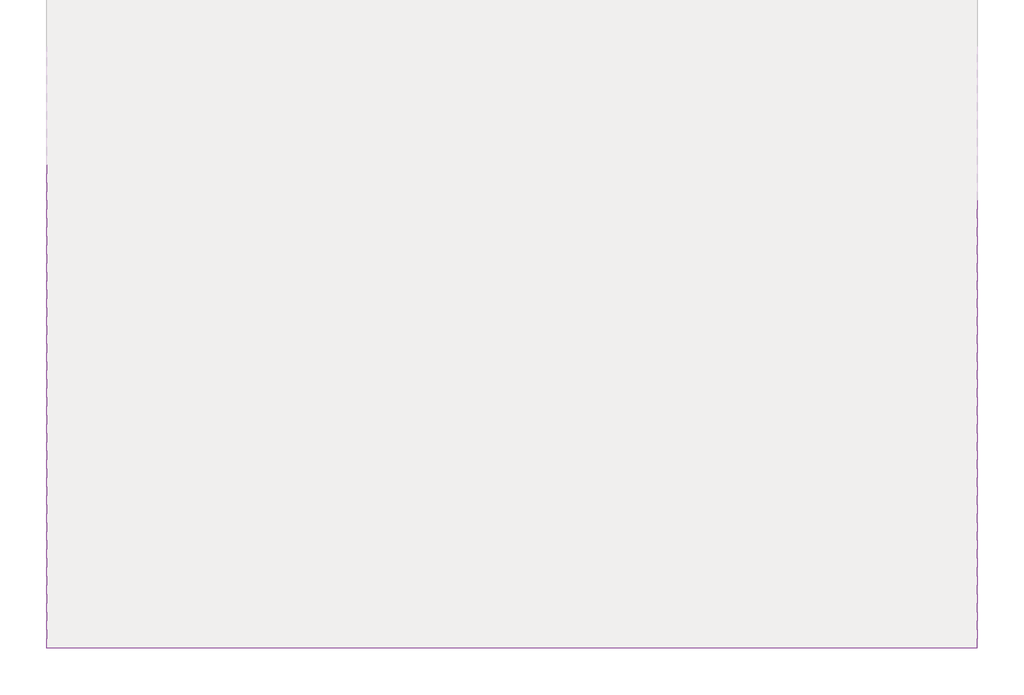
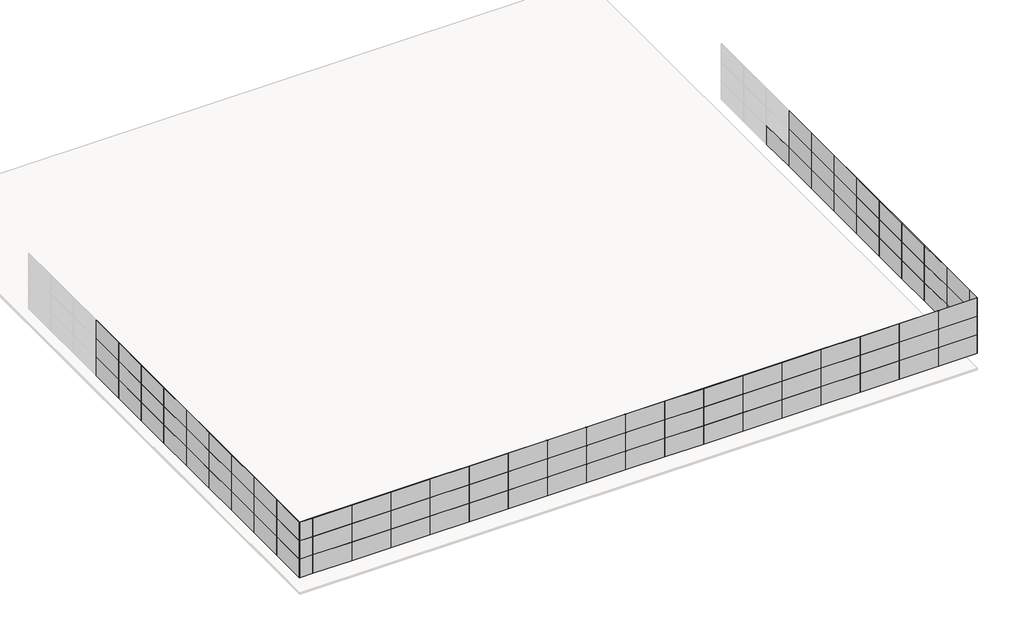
# One storey, part 1 of 2: 109 plates.
"""IFC4 building model written with IfcOpenShell, lengths in millimetres."""

from ifc_helpers import new_model, si_unit, origin, place, context, project, spatial, transform, mapped, element, save
from components import plate_b491c4e8, plate_da1865bf

model = new_model("IFC4")

# Units and contexts
model_context = context("Model", 3, world=origin())
ifc_project = project(units=[si_unit("LENGTHUNIT", "METRE", prefix="MILLI")], contexts=[model_context])

# Site, building, storey
site = spatial("IfcSite", under=ifc_project)
building = spatial("IfcBuilding", under=site)
storey = spatial("IfcBuildingStorey", under=building, Name="标高 2", Elevation=4800.0)

# Plates
placement = place(None, origin())
plate_shape = plate_b491c4e8(model_context)
element("IfcPlate", 1, ObjectType="系统嵌板 : 玻璃", at=placement, inside=storey, context=model_context, shape_type="MappedRepresentation", body=[
    mapped(plate_shape, transform((30694.7947586, -748.6313563, 6000.0), x_axis=(0.0, -1.0, 0.0), y_axis=(1.0, 0.0, 0.0), z_axis=(0.0, 0.0, 1.0))),
])
element("IfcPlate", 2, ObjectType="系统嵌板 : 玻璃", at=placement, inside=storey, context=model_context, shape_type="MappedRepresentation", body=[
    mapped(plate_shape, transform((30694.7947586, -3748.6313563, 6000.0), x_axis=(0.0, -1.0, 0.0), y_axis=(1.0, 0.0, 0.0), z_axis=(0.0, 0.0, 1.0))),
])
element("IfcPlate", 3, ObjectType="系统嵌板 : 玻璃", at=placement, inside=storey, context=model_context, shape_type="MappedRepresentation", body=[
    mapped(plate_shape, transform((30694.7947586, -6748.6313563, 6000.0), x_axis=(0.0, -1.0, 0.0), y_axis=(1.0, 0.0, 0.0), z_axis=(0.0, 0.0, 1.0))),
])
element("IfcPlate", 4, ObjectType="系统嵌板 : 玻璃", at=placement, inside=storey, context=model_context, shape_type="MappedRepresentation", body=[
    mapped(plate_shape, transform((30694.7947586, -9748.6313563, 6000.0), x_axis=(0.0, -1.0, 0.0), y_axis=(1.0, 0.0, 0.0), z_axis=(0.0, 0.0, 1.0))),
])
element("IfcPlate", 5, ObjectType="系统嵌板 : 玻璃", at=placement, inside=storey, context=model_context, shape_type="MappedRepresentation", body=[
    mapped(plate_shape, transform((30694.7947586, -12748.6313563, 6000.0), x_axis=(0.0, -1.0, 0.0), y_axis=(1.0, 0.0, 0.0), z_axis=(0.0, 0.0, 1.0))),
])
element("IfcPlate", 6, ObjectType="系统嵌板 : 玻璃", at=placement, inside=storey, context=model_context, shape_type="MappedRepresentation", body=[
    mapped(plate_shape, transform((30694.7947586, -15748.6313563, 6000.0), x_axis=(0.0, -1.0, 0.0), y_axis=(1.0, 0.0, 0.0), z_axis=(0.0, 0.0, 1.0))),
])
element("IfcPlate", 7, ObjectType="系统嵌板 : 玻璃", at=placement, inside=storey, context=model_context, shape_type="MappedRepresentation", body=[
    mapped(plate_shape, transform((30694.7947586, -18748.6313563, 6000.0), x_axis=(0.0, -1.0, 0.0), y_axis=(1.0, 0.0, 0.0), z_axis=(0.0, 0.0, 1.0))),
])
element("IfcPlate", 8, ObjectType="系统嵌板 : 玻璃", at=placement, inside=storey, context=model_context, shape_type="MappedRepresentation", body=[
    mapped(plate_shape, transform((30694.7947586, -21748.6313563, 6000.0), x_axis=(0.0, -1.0, 0.0), y_axis=(1.0, 0.0, 0.0), z_axis=(0.0, 0.0, 1.0))),
])
element("IfcPlate", 9, ObjectType="系统嵌板 : 玻璃", at=placement, inside=storey, context=model_context, shape_type="MappedRepresentation", body=[
    mapped(plate_shape, transform((30694.7947586, -24748.6313563, 6000.0), x_axis=(0.0, -1.0, 0.0), y_axis=(1.0, 0.0, 0.0), z_axis=(0.0, 0.0, 1.0))),
])
element("IfcPlate", 10, ObjectType="系统嵌板 : 玻璃", at=placement, inside=storey, context=model_context, shape_type="MappedRepresentation", body=[
    mapped(plate_shape, transform((30694.7947586, -3748.6313563, 7500.0), x_axis=(0.0, -1.0, 0.0), y_axis=(1.0, 0.0, 0.0), z_axis=(0.0, 0.0, 1.0))),
])
element("IfcPlate", 11, ObjectType="系统嵌板 : 玻璃", at=placement, inside=storey, context=model_context, shape_type="MappedRepresentation", body=[
    mapped(plate_shape, transform((30694.7947586, -6748.6313563, 7500.0), x_axis=(0.0, -1.0, 0.0), y_axis=(1.0, 0.0, 0.0), z_axis=(0.0, 0.0, 1.0))),
])
element("IfcPlate", 12, ObjectType="系统嵌板 : 玻璃", at=placement, inside=storey, context=model_context, shape_type="MappedRepresentation", body=[
    mapped(plate_shape, transform((30694.7947586, -9748.6313563, 7500.0), x_axis=(0.0, -1.0, 0.0), y_axis=(1.0, 0.0, 0.0), z_axis=(0.0, 0.0, 1.0))),
])
element("IfcPlate", 13, ObjectType="系统嵌板 : 玻璃", at=placement, inside=storey, context=model_context, shape_type="MappedRepresentation", body=[
    mapped(plate_shape, transform((30694.7947586, -12748.6313563, 7500.0), x_axis=(0.0, -1.0, 0.0), y_axis=(1.0, 0.0, 0.0), z_axis=(0.0, 0.0, 1.0))),
])
element("IfcPlate", 14, ObjectType="系统嵌板 : 玻璃", at=placement, inside=storey, context=model_context, shape_type="MappedRepresentation", body=[
    mapped(plate_shape, transform((30694.7947586, -15748.6313563, 7500.0), x_axis=(0.0, -1.0, 0.0), y_axis=(1.0, 0.0, 0.0), z_axis=(0.0, 0.0, 1.0))),
])
element("IfcPlate", 15, ObjectType="系统嵌板 : 玻璃", at=placement, inside=storey, context=model_context, shape_type="MappedRepresentation", body=[
    mapped(plate_shape, transform((30694.7947586, -18748.6313563, 7500.0), x_axis=(0.0, -1.0, 0.0), y_axis=(1.0, 0.0, 0.0), z_axis=(0.0, 0.0, 1.0))),
])
element("IfcPlate", 16, ObjectType="系统嵌板 : 玻璃", at=placement, inside=storey, context=model_context, shape_type="MappedRepresentation", body=[
    mapped(plate_shape, transform((30694.7947586, -21748.6313563, 7500.0), x_axis=(0.0, -1.0, 0.0), y_axis=(1.0, 0.0, 0.0), z_axis=(0.0, 0.0, 1.0))),
])
element("IfcPlate", 17, ObjectType="系统嵌板 : 玻璃", at=placement, inside=storey, context=model_context, shape_type="MappedRepresentation", body=[
    mapped(plate_shape, transform((30694.7947586, -24748.6313563, 7500.0), x_axis=(0.0, -1.0, 0.0), y_axis=(1.0, 0.0, 0.0), z_axis=(0.0, 0.0, 1.0))),
])
element("IfcPlate", 18, ObjectType="系统嵌板 : 玻璃", at=placement, inside=storey, context=model_context, shape_type="MappedRepresentation", body=[
    mapped(plate_shape, transform((30694.7947586, -3748.6313563, 9000.0), x_axis=(0.0, -1.0, 0.0), y_axis=(1.0, 0.0, 0.0), z_axis=(0.0, 0.0, 1.0))),
])
element("IfcPlate", 19, ObjectType="系统嵌板 : 玻璃", at=placement, inside=storey, context=model_context, shape_type="MappedRepresentation", body=[
    mapped(plate_shape, transform((30694.7947586, -6748.6313563, 9000.0), x_axis=(0.0, -1.0, 0.0), y_axis=(1.0, 0.0, 0.0), z_axis=(0.0, 0.0, 1.0))),
])
element("IfcPlate", 20, ObjectType="系统嵌板 : 玻璃", at=placement, inside=storey, context=model_context, shape_type="MappedRepresentation", body=[
    mapped(plate_shape, transform((30694.7947586, -9748.6313563, 9000.0), x_axis=(0.0, -1.0, 0.0), y_axis=(1.0, 0.0, 0.0), z_axis=(0.0, 0.0, 1.0))),
])
element("IfcPlate", 21, ObjectType="系统嵌板 : 玻璃", at=placement, inside=storey, context=model_context, shape_type="MappedRepresentation", body=[
    mapped(plate_shape, transform((30694.7947586, -12748.6313563, 9000.0), x_axis=(0.0, -1.0, 0.0), y_axis=(1.0, 0.0, 0.0), z_axis=(0.0, 0.0, 1.0))),
])
element("IfcPlate", 22, ObjectType="系统嵌板 : 玻璃", at=placement, inside=storey, context=model_context, shape_type="MappedRepresentation", body=[
    mapped(plate_shape, transform((30694.7947586, -15748.6313563, 9000.0), x_axis=(0.0, -1.0, 0.0), y_axis=(1.0, 0.0, 0.0), z_axis=(0.0, 0.0, 1.0))),
])
element("IfcPlate", 23, ObjectType="系统嵌板 : 玻璃", at=placement, inside=storey, context=model_context, shape_type="MappedRepresentation", body=[
    mapped(plate_shape, transform((30694.7947586, -18748.6313563, 9000.0), x_axis=(0.0, -1.0, 0.0), y_axis=(1.0, 0.0, 0.0), z_axis=(0.0, 0.0, 1.0))),
])
element("IfcPlate", 24, ObjectType="系统嵌板 : 玻璃", at=placement, inside=storey, context=model_context, shape_type="MappedRepresentation", body=[
    mapped(plate_shape, transform((30694.7947586, -21748.6313563, 9000.0), x_axis=(0.0, -1.0, 0.0), y_axis=(1.0, 0.0, 0.0), z_axis=(0.0, 0.0, 1.0))),
])
element("IfcPlate", 25, ObjectType="系统嵌板 : 玻璃", at=placement, inside=storey, context=model_context, shape_type="MappedRepresentation", body=[
    mapped(plate_shape, transform((30694.7947586, -24748.6313563, 9000.0), x_axis=(0.0, -1.0, 0.0), y_axis=(1.0, 0.0, 0.0), z_axis=(0.0, 0.0, 1.0))),
])
element("IfcPlate", 26, ObjectType="系统嵌板 : 玻璃", at=placement, inside=storey, context=model_context, shape_type="MappedRepresentation", body=[
    mapped(plate_shape, transform((-21305.2052414, -25748.6313563, 6000.0), x_axis=(0.0, 1.0, 0.0), y_axis=(-1.0, 0.0, 0.0), z_axis=(0.0, 0.0, 1.0))),
])
element("IfcPlate", 27, ObjectType="系统嵌板 : 玻璃", at=placement, inside=storey, context=model_context, shape_type="MappedRepresentation", body=[
    mapped(plate_shape, transform((-21305.2052414, -22748.6313563, 6000.0), x_axis=(0.0, 1.0, 0.0), y_axis=(-1.0, 0.0, 0.0), z_axis=(0.0, 0.0, 1.0))),
])
element("IfcPlate", 28, ObjectType="系统嵌板 : 玻璃", at=placement, inside=storey, context=model_context, shape_type="MappedRepresentation", body=[
    mapped(plate_shape, transform((-21305.2052414, -19748.6313563, 6000.0), x_axis=(0.0, 1.0, 0.0), y_axis=(-1.0, 0.0, 0.0), z_axis=(0.0, 0.0, 1.0))),
])
element("IfcPlate", 29, ObjectType="系统嵌板 : 玻璃", at=placement, inside=storey, context=model_context, shape_type="MappedRepresentation", body=[
    mapped(plate_shape, transform((-21305.2052414, -16748.6313563, 6000.0), x_axis=(0.0, 1.0, 0.0), y_axis=(-1.0, 0.0, 0.0), z_axis=(0.0, 0.0, 1.0))),
])
element("IfcPlate", 30, ObjectType="系统嵌板 : 玻璃", at=placement, inside=storey, context=model_context, shape_type="MappedRepresentation", body=[
    mapped(plate_shape, transform((-21305.2052414, -13748.6313563, 6000.0), x_axis=(0.0, 1.0, 0.0), y_axis=(-1.0, 0.0, 0.0), z_axis=(0.0, 0.0, 1.0))),
])
element("IfcPlate", 31, ObjectType="系统嵌板 : 玻璃", at=placement, inside=storey, context=model_context, shape_type="MappedRepresentation", body=[
    mapped(plate_shape, transform((-21305.2052414, -10748.6313563, 6000.0), x_axis=(0.0, 1.0, 0.0), y_axis=(-1.0, 0.0, 0.0), z_axis=(0.0, 0.0, 1.0))),
])
element("IfcPlate", 32, ObjectType="系统嵌板 : 玻璃", at=placement, inside=storey, context=model_context, shape_type="MappedRepresentation", body=[
    mapped(plate_shape, transform((-21305.2052414, -7748.6313563, 6000.0), x_axis=(0.0, 1.0, 0.0), y_axis=(-1.0, 0.0, 0.0), z_axis=(0.0, 0.0, 1.0))),
])
element("IfcPlate", 33, ObjectType="系统嵌板 : 玻璃", at=placement, inside=storey, context=model_context, shape_type="MappedRepresentation", body=[
    mapped(plate_shape, transform((-21305.2052414, -4748.6313563, 6000.0), x_axis=(0.0, 1.0, 0.0), y_axis=(-1.0, 0.0, 0.0), z_axis=(0.0, 0.0, 1.0))),
])
element("IfcPlate", 34, ObjectType="系统嵌板 : 玻璃", at=placement, inside=storey, context=model_context, shape_type="MappedRepresentation", body=[
    mapped(plate_shape, transform((-21305.2052414, -1748.6313563, 6000.0), x_axis=(0.0, 1.0, 0.0), y_axis=(-1.0, 0.0, 0.0), z_axis=(0.0, 0.0, 1.0))),
])
element("IfcPlate", 35, ObjectType="系统嵌板 : 玻璃", at=placement, inside=storey, context=model_context, shape_type="MappedRepresentation", body=[
    mapped(plate_shape, transform((-21305.2052414, -25748.6313563, 7500.0), x_axis=(0.0, 1.0, 0.0), y_axis=(-1.0, 0.0, 0.0), z_axis=(0.0, 0.0, 1.0))),
])
element("IfcPlate", 36, ObjectType="系统嵌板 : 玻璃", at=placement, inside=storey, context=model_context, shape_type="MappedRepresentation", body=[
    mapped(plate_shape, transform((-21305.2052414, -22748.6313563, 7500.0), x_axis=(0.0, 1.0, 0.0), y_axis=(-1.0, 0.0, 0.0), z_axis=(0.0, 0.0, 1.0))),
])
element("IfcPlate", 37, ObjectType="系统嵌板 : 玻璃", at=placement, inside=storey, context=model_context, shape_type="MappedRepresentation", body=[
    mapped(plate_shape, transform((-21305.2052414, -19748.6313563, 7500.0), x_axis=(0.0, 1.0, 0.0), y_axis=(-1.0, 0.0, 0.0), z_axis=(0.0, 0.0, 1.0))),
])
element("IfcPlate", 38, ObjectType="系统嵌板 : 玻璃", at=placement, inside=storey, context=model_context, shape_type="MappedRepresentation", body=[
    mapped(plate_shape, transform((-21305.2052414, -16748.6313563, 7500.0), x_axis=(0.0, 1.0, 0.0), y_axis=(-1.0, 0.0, 0.0), z_axis=(0.0, 0.0, 1.0))),
])
element("IfcPlate", 39, ObjectType="系统嵌板 : 玻璃", at=placement, inside=storey, context=model_context, shape_type="MappedRepresentation", body=[
    mapped(plate_shape, transform((-21305.2052414, -13748.6313563, 7500.0), x_axis=(0.0, 1.0, 0.0), y_axis=(-1.0, 0.0, 0.0), z_axis=(0.0, 0.0, 1.0))),
])
element("IfcPlate", 40, ObjectType="系统嵌板 : 玻璃", at=placement, inside=storey, context=model_context, shape_type="MappedRepresentation", body=[
    mapped(plate_shape, transform((-21305.2052414, -10748.6313563, 7500.0), x_axis=(0.0, 1.0, 0.0), y_axis=(-1.0, 0.0, 0.0), z_axis=(0.0, 0.0, 1.0))),
])
element("IfcPlate", 41, ObjectType="系统嵌板 : 玻璃", at=placement, inside=storey, context=model_context, shape_type="MappedRepresentation", body=[
    mapped(plate_shape, transform((-21305.2052414, -7748.6313563, 7500.0), x_axis=(0.0, 1.0, 0.0), y_axis=(-1.0, 0.0, 0.0), z_axis=(0.0, 0.0, 1.0))),
])
element("IfcPlate", 42, ObjectType="系统嵌板 : 玻璃", at=placement, inside=storey, context=model_context, shape_type="MappedRepresentation", body=[
    mapped(plate_shape, transform((-21305.2052414, -4748.6313563, 7500.0), x_axis=(0.0, 1.0, 0.0), y_axis=(-1.0, 0.0, 0.0), z_axis=(0.0, 0.0, 1.0))),
])
element("IfcPlate", 43, ObjectType="系统嵌板 : 玻璃", at=placement, inside=storey, context=model_context, shape_type="MappedRepresentation", body=[
    mapped(plate_shape, transform((-21305.2052414, -1748.6313563, 7500.0), x_axis=(0.0, 1.0, 0.0), y_axis=(-1.0, 0.0, 0.0), z_axis=(0.0, 0.0, 1.0))),
])
element("IfcPlate", 44, ObjectType="系统嵌板 : 玻璃", at=placement, inside=storey, context=model_context, shape_type="MappedRepresentation", body=[
    mapped(plate_shape, transform((-21305.2052414, -25748.6313563, 9000.0), x_axis=(0.0, 1.0, 0.0), y_axis=(-1.0, 0.0, 0.0), z_axis=(0.0, 0.0, 1.0))),
])
element("IfcPlate", 45, ObjectType="系统嵌板 : 玻璃", at=placement, inside=storey, context=model_context, shape_type="MappedRepresentation", body=[
    mapped(plate_shape, transform((-21305.2052414, -22748.6313563, 9000.0), x_axis=(0.0, 1.0, 0.0), y_axis=(-1.0, 0.0, 0.0), z_axis=(0.0, 0.0, 1.0))),
])
element("IfcPlate", 46, ObjectType="系统嵌板 : 玻璃", at=placement, inside=storey, context=model_context, shape_type="MappedRepresentation", body=[
    mapped(plate_shape, transform((-21305.2052414, -19748.6313563, 9000.0), x_axis=(0.0, 1.0, 0.0), y_axis=(-1.0, 0.0, 0.0), z_axis=(0.0, 0.0, 1.0))),
])
element("IfcPlate", 47, ObjectType="系统嵌板 : 玻璃", at=placement, inside=storey, context=model_context, shape_type="MappedRepresentation", body=[
    mapped(plate_shape, transform((-21305.2052414, -16748.6313563, 9000.0), x_axis=(0.0, 1.0, 0.0), y_axis=(-1.0, 0.0, 0.0), z_axis=(0.0, 0.0, 1.0))),
])
element("IfcPlate", 48, ObjectType="系统嵌板 : 玻璃", at=placement, inside=storey, context=model_context, shape_type="MappedRepresentation", body=[
    mapped(plate_shape, transform((-21305.2052414, -13748.6313563, 9000.0), x_axis=(0.0, 1.0, 0.0), y_axis=(-1.0, 0.0, 0.0), z_axis=(0.0, 0.0, 1.0))),
])
element("IfcPlate", 49, ObjectType="系统嵌板 : 玻璃", at=placement, inside=storey, context=model_context, shape_type="MappedRepresentation", body=[
    mapped(plate_shape, transform((-21305.2052414, -10748.6313563, 9000.0), x_axis=(0.0, 1.0, 0.0), y_axis=(-1.0, 0.0, 0.0), z_axis=(0.0, 0.0, 1.0))),
])
element("IfcPlate", 50, ObjectType="系统嵌板 : 玻璃", at=placement, inside=storey, context=model_context, shape_type="MappedRepresentation", body=[
    mapped(plate_shape, transform((-21305.2052414, -7748.6313563, 9000.0), x_axis=(0.0, 1.0, 0.0), y_axis=(-1.0, 0.0, 0.0), z_axis=(0.0, 0.0, 1.0))),
])
element("IfcPlate", 51, ObjectType="系统嵌板 : 玻璃", at=placement, inside=storey, context=model_context, shape_type="MappedRepresentation", body=[
    mapped(plate_shape, transform((-21305.2052414, -4748.6313563, 9000.0), x_axis=(0.0, 1.0, 0.0), y_axis=(-1.0, 0.0, 0.0), z_axis=(0.0, 0.0, 1.0))),
])
element("IfcPlate", 52, ObjectType="系统嵌板 : 玻璃", at=placement, inside=storey, context=model_context, shape_type="MappedRepresentation", body=[
    mapped(plate_shape, transform((-21305.2052414, -1748.6313563, 9000.0), x_axis=(0.0, 1.0, 0.0), y_axis=(-1.0, 0.0, 0.0), z_axis=(0.0, 0.0, 1.0))),
])
element("IfcPlate", 53, ObjectType="系统嵌板 : 玻璃", at=placement, inside=storey, context=model_context, shape_type="MappedRepresentation", body=[
    mapped(plate_shape, transform((29194.7947586, -27248.6313563, 6000.0), x_axis=(-1.0, 0.0, 0.0), y_axis=(0.0, -1.0, 0.0), z_axis=(0.0, 0.0, 1.0))),
])
element("IfcPlate", 54, ObjectType="系统嵌板 : 玻璃", at=placement, inside=storey, context=model_context, shape_type="MappedRepresentation", body=[
    mapped(plate_shape, transform((26194.7947586, -27248.6313563, 6000.0), x_axis=(-1.0, 0.0, 0.0), y_axis=(0.0, -1.0, 0.0), z_axis=(0.0, 0.0, 1.0))),
])
element("IfcPlate", 55, ObjectType="系统嵌板 : 玻璃", at=placement, inside=storey, context=model_context, shape_type="MappedRepresentation", body=[
    mapped(plate_shape, transform((23194.7947586, -27248.6313563, 6000.0), x_axis=(-1.0, 0.0, 0.0), y_axis=(0.0, -1.0, 0.0), z_axis=(0.0, 0.0, 1.0))),
])
element("IfcPlate", 56, ObjectType="系统嵌板 : 玻璃", at=placement, inside=storey, context=model_context, shape_type="MappedRepresentation", body=[
    mapped(plate_shape, transform((20194.7947586, -27248.6313563, 6000.0), x_axis=(-1.0, 0.0, 0.0), y_axis=(0.0, -1.0, 0.0), z_axis=(0.0, 0.0, 1.0))),
])
element("IfcPlate", 57, ObjectType="系统嵌板 : 玻璃", at=placement, inside=storey, context=model_context, shape_type="MappedRepresentation", body=[
    mapped(plate_shape, transform((17194.7947586, -27248.6313563, 6000.0), x_axis=(-1.0, 0.0, 0.0), y_axis=(0.0, -1.0, 0.0), z_axis=(0.0, 0.0, 1.0))),
])
element("IfcPlate", 58, ObjectType="系统嵌板 : 玻璃", at=placement, inside=storey, context=model_context, shape_type="MappedRepresentation", body=[
    mapped(plate_shape, transform((14194.7947586, -27248.6313563, 6000.0), x_axis=(-1.0, 0.0, 0.0), y_axis=(0.0, -1.0, 0.0), z_axis=(0.0, 0.0, 1.0))),
])
element("IfcPlate", 59, ObjectType="系统嵌板 : 玻璃", at=placement, inside=storey, context=model_context, shape_type="MappedRepresentation", body=[
    mapped(plate_shape, transform((11194.7947586, -27248.6313563, 6000.0), x_axis=(-1.0, 0.0, 0.0), y_axis=(0.0, -1.0, 0.0), z_axis=(0.0, 0.0, 1.0))),
])
element("IfcPlate", 60, ObjectType="系统嵌板 : 玻璃", at=placement, inside=storey, context=model_context, shape_type="MappedRepresentation", body=[
    mapped(plate_shape, transform((8194.7947586, -27248.6313563, 6000.0), x_axis=(-1.0, 0.0, 0.0), y_axis=(0.0, -1.0, 0.0), z_axis=(0.0, 0.0, 1.0))),
])
element("IfcPlate", 61, ObjectType="系统嵌板 : 玻璃", at=placement, inside=storey, context=model_context, shape_type="MappedRepresentation", body=[
    mapped(plate_shape, transform((5194.7947586, -27248.6313563, 6000.0), x_axis=(-1.0, 0.0, 0.0), y_axis=(0.0, -1.0, 0.0), z_axis=(0.0, 0.0, 1.0))),
])
element("IfcPlate", 62, ObjectType="系统嵌板 : 玻璃", at=placement, inside=storey, context=model_context, shape_type="MappedRepresentation", body=[
    mapped(plate_shape, transform((2194.7947586, -27248.6313563, 6000.0), x_axis=(-1.0, 0.0, 0.0), y_axis=(0.0, -1.0, 0.0), z_axis=(0.0, 0.0, 1.0))),
])
element("IfcPlate", 63, ObjectType="系统嵌板 : 玻璃", at=placement, inside=storey, context=model_context, shape_type="MappedRepresentation", body=[
    mapped(plate_shape, transform((-805.2052414, -27248.6313563, 6000.0), x_axis=(-1.0, 0.0, 0.0), y_axis=(0.0, -1.0, 0.0), z_axis=(0.0, 0.0, 1.0))),
])
element("IfcPlate", 64, ObjectType="系统嵌板 : 玻璃", at=placement, inside=storey, context=model_context, shape_type="MappedRepresentation", body=[
    mapped(plate_shape, transform((-3805.2052414, -27248.6313563, 6000.0), x_axis=(-1.0, 0.0, 0.0), y_axis=(0.0, -1.0, 0.0), z_axis=(0.0, 0.0, 1.0))),
])
element("IfcPlate", 65, ObjectType="系统嵌板 : 玻璃", at=placement, inside=storey, context=model_context, shape_type="MappedRepresentation", body=[
    mapped(plate_shape, transform((-6805.2052414, -27248.6313563, 6000.0), x_axis=(-1.0, 0.0, 0.0), y_axis=(0.0, -1.0, 0.0), z_axis=(0.0, 0.0, 1.0))),
])
element("IfcPlate", 66, ObjectType="系统嵌板 : 玻璃", at=placement, inside=storey, context=model_context, shape_type="MappedRepresentation", body=[
    mapped(plate_shape, transform((-9805.2052414, -27248.6313563, 6000.0), x_axis=(-1.0, 0.0, 0.0), y_axis=(0.0, -1.0, 0.0), z_axis=(0.0, 0.0, 1.0))),
])
element("IfcPlate", 67, ObjectType="系统嵌板 : 玻璃", at=placement, inside=storey, context=model_context, shape_type="MappedRepresentation", body=[
    mapped(plate_shape, transform((-12805.2052414, -27248.6313563, 6000.0), x_axis=(-1.0, 0.0, 0.0), y_axis=(0.0, -1.0, 0.0), z_axis=(0.0, 0.0, 1.0))),
])
element("IfcPlate", 68, ObjectType="系统嵌板 : 玻璃", at=placement, inside=storey, context=model_context, shape_type="MappedRepresentation", body=[
    mapped(plate_shape, transform((-15805.2052414, -27248.6313563, 6000.0), x_axis=(-1.0, 0.0, 0.0), y_axis=(0.0, -1.0, 0.0), z_axis=(0.0, 0.0, 1.0))),
])
element("IfcPlate", 69, ObjectType="系统嵌板 : 玻璃", at=placement, inside=storey, context=model_context, shape_type="MappedRepresentation", body=[
    mapped(plate_shape, transform((-18805.2052414, -27248.6313563, 6000.0), x_axis=(-1.0, 0.0, 0.0), y_axis=(0.0, -1.0, 0.0), z_axis=(0.0, 0.0, 1.0))),
])
element("IfcPlate", 70, ObjectType="系统嵌板 : 玻璃", at=placement, inside=storey, context=model_context, shape_type="MappedRepresentation", body=[
    mapped(plate_shape, transform((29194.7947586, -27248.6313563, 7500.0), x_axis=(-1.0, 0.0, 0.0), y_axis=(0.0, -1.0, 0.0), z_axis=(0.0, 0.0, 1.0))),
])
element("IfcPlate", 71, ObjectType="系统嵌板 : 玻璃", at=placement, inside=storey, context=model_context, shape_type="MappedRepresentation", body=[
    mapped(plate_shape, transform((26194.7947586, -27248.6313563, 7500.0), x_axis=(-1.0, 0.0, 0.0), y_axis=(0.0, -1.0, 0.0), z_axis=(0.0, 0.0, 1.0))),
])
element("IfcPlate", 72, ObjectType="系统嵌板 : 玻璃", at=placement, inside=storey, context=model_context, shape_type="MappedRepresentation", body=[
    mapped(plate_shape, transform((23194.7947586, -27248.6313563, 7500.0), x_axis=(-1.0, 0.0, 0.0), y_axis=(0.0, -1.0, 0.0), z_axis=(0.0, 0.0, 1.0))),
])
element("IfcPlate", 73, ObjectType="系统嵌板 : 玻璃", at=placement, inside=storey, context=model_context, shape_type="MappedRepresentation", body=[
    mapped(plate_shape, transform((20194.7947586, -27248.6313563, 7500.0), x_axis=(-1.0, 0.0, 0.0), y_axis=(0.0, -1.0, 0.0), z_axis=(0.0, 0.0, 1.0))),
])
element("IfcPlate", 74, ObjectType="系统嵌板 : 玻璃", at=placement, inside=storey, context=model_context, shape_type="MappedRepresentation", body=[
    mapped(plate_shape, transform((17194.7947586, -27248.6313563, 7500.0), x_axis=(-1.0, 0.0, 0.0), y_axis=(0.0, -1.0, 0.0), z_axis=(0.0, 0.0, 1.0))),
])
element("IfcPlate", 75, ObjectType="系统嵌板 : 玻璃", at=placement, inside=storey, context=model_context, shape_type="MappedRepresentation", body=[
    mapped(plate_shape, transform((14194.7947586, -27248.6313563, 7500.0), x_axis=(-1.0, 0.0, 0.0), y_axis=(0.0, -1.0, 0.0), z_axis=(0.0, 0.0, 1.0))),
])
element("IfcPlate", 76, ObjectType="系统嵌板 : 玻璃", at=placement, inside=storey, context=model_context, shape_type="MappedRepresentation", body=[
    mapped(plate_shape, transform((11194.7947586, -27248.6313563, 7500.0), x_axis=(-1.0, 0.0, 0.0), y_axis=(0.0, -1.0, 0.0), z_axis=(0.0, 0.0, 1.0))),
])
element("IfcPlate", 77, ObjectType="系统嵌板 : 玻璃", at=placement, inside=storey, context=model_context, shape_type="MappedRepresentation", body=[
    mapped(plate_shape, transform((8194.7947586, -27248.6313563, 7500.0), x_axis=(-1.0, 0.0, 0.0), y_axis=(0.0, -1.0, 0.0), z_axis=(0.0, 0.0, 1.0))),
])
element("IfcPlate", 78, ObjectType="系统嵌板 : 玻璃", at=placement, inside=storey, context=model_context, shape_type="MappedRepresentation", body=[
    mapped(plate_shape, transform((5194.7947586, -27248.6313563, 7500.0), x_axis=(-1.0, 0.0, 0.0), y_axis=(0.0, -1.0, 0.0), z_axis=(0.0, 0.0, 1.0))),
])
element("IfcPlate", 79, ObjectType="系统嵌板 : 玻璃", at=placement, inside=storey, context=model_context, shape_type="MappedRepresentation", body=[
    mapped(plate_shape, transform((2194.7947586, -27248.6313563, 7500.0), x_axis=(-1.0, 0.0, 0.0), y_axis=(0.0, -1.0, 0.0), z_axis=(0.0, 0.0, 1.0))),
])
element("IfcPlate", 80, ObjectType="系统嵌板 : 玻璃", at=placement, inside=storey, context=model_context, shape_type="MappedRepresentation", body=[
    mapped(plate_shape, transform((-805.2052414, -27248.6313563, 7500.0), x_axis=(-1.0, 0.0, 0.0), y_axis=(0.0, -1.0, 0.0), z_axis=(0.0, 0.0, 1.0))),
])
element("IfcPlate", 81, ObjectType="系统嵌板 : 玻璃", at=placement, inside=storey, context=model_context, shape_type="MappedRepresentation", body=[
    mapped(plate_shape, transform((-3805.2052414, -27248.6313563, 7500.0), x_axis=(-1.0, 0.0, 0.0), y_axis=(0.0, -1.0, 0.0), z_axis=(0.0, 0.0, 1.0))),
])
element("IfcPlate", 82, ObjectType="系统嵌板 : 玻璃", at=placement, inside=storey, context=model_context, shape_type="MappedRepresentation", body=[
    mapped(plate_shape, transform((-6805.2052414, -27248.6313563, 7500.0), x_axis=(-1.0, 0.0, 0.0), y_axis=(0.0, -1.0, 0.0), z_axis=(0.0, 0.0, 1.0))),
])
element("IfcPlate", 83, ObjectType="系统嵌板 : 玻璃", at=placement, inside=storey, context=model_context, shape_type="MappedRepresentation", body=[
    mapped(plate_shape, transform((-9805.2052414, -27248.6313563, 7500.0), x_axis=(-1.0, 0.0, 0.0), y_axis=(0.0, -1.0, 0.0), z_axis=(0.0, 0.0, 1.0))),
])
element("IfcPlate", 84, ObjectType="系统嵌板 : 玻璃", at=placement, inside=storey, context=model_context, shape_type="MappedRepresentation", body=[
    mapped(plate_shape, transform((-12805.2052414, -27248.6313563, 7500.0), x_axis=(-1.0, 0.0, 0.0), y_axis=(0.0, -1.0, 0.0), z_axis=(0.0, 0.0, 1.0))),
])
element("IfcPlate", 85, ObjectType="系统嵌板 : 玻璃", at=placement, inside=storey, context=model_context, shape_type="MappedRepresentation", body=[
    mapped(plate_shape, transform((-15805.2052414, -27248.6313563, 7500.0), x_axis=(-1.0, 0.0, 0.0), y_axis=(0.0, -1.0, 0.0), z_axis=(0.0, 0.0, 1.0))),
])
element("IfcPlate", 86, ObjectType="系统嵌板 : 玻璃", at=placement, inside=storey, context=model_context, shape_type="MappedRepresentation", body=[
    mapped(plate_shape, transform((-18805.2052414, -27248.6313563, 7500.0), x_axis=(-1.0, 0.0, 0.0), y_axis=(0.0, -1.0, 0.0), z_axis=(0.0, 0.0, 1.0))),
])
element("IfcPlate", 87, ObjectType="系统嵌板 : 玻璃", at=placement, inside=storey, context=model_context, shape_type="MappedRepresentation", body=[
    mapped(plate_shape, transform((29194.7947586, -27248.6313563, 9000.0), x_axis=(-1.0, 0.0, 0.0), y_axis=(0.0, -1.0, 0.0), z_axis=(0.0, 0.0, 1.0))),
])
element("IfcPlate", 88, ObjectType="系统嵌板 : 玻璃", at=placement, inside=storey, context=model_context, shape_type="MappedRepresentation", body=[
    mapped(plate_shape, transform((26194.7947586, -27248.6313563, 9000.0), x_axis=(-1.0, 0.0, 0.0), y_axis=(0.0, -1.0, 0.0), z_axis=(0.0, 0.0, 1.0))),
])
element("IfcPlate", 89, ObjectType="系统嵌板 : 玻璃", at=placement, inside=storey, context=model_context, shape_type="MappedRepresentation", body=[
    mapped(plate_shape, transform((23194.7947586, -27248.6313563, 9000.0), x_axis=(-1.0, 0.0, 0.0), y_axis=(0.0, -1.0, 0.0), z_axis=(0.0, 0.0, 1.0))),
])
element("IfcPlate", 90, ObjectType="系统嵌板 : 玻璃", at=placement, inside=storey, context=model_context, shape_type="MappedRepresentation", body=[
    mapped(plate_shape, transform((20194.7947586, -27248.6313563, 9000.0), x_axis=(-1.0, 0.0, 0.0), y_axis=(0.0, -1.0, 0.0), z_axis=(0.0, 0.0, 1.0))),
])
element("IfcPlate", 91, ObjectType="系统嵌板 : 玻璃", at=placement, inside=storey, context=model_context, shape_type="MappedRepresentation", body=[
    mapped(plate_shape, transform((17194.7947586, -27248.6313563, 9000.0), x_axis=(-1.0, 0.0, 0.0), y_axis=(0.0, -1.0, 0.0), z_axis=(0.0, 0.0, 1.0))),
])
element("IfcPlate", 92, ObjectType="系统嵌板 : 玻璃", at=placement, inside=storey, context=model_context, shape_type="MappedRepresentation", body=[
    mapped(plate_shape, transform((14194.7947586, -27248.6313563, 9000.0), x_axis=(-1.0, 0.0, 0.0), y_axis=(0.0, -1.0, 0.0), z_axis=(0.0, 0.0, 1.0))),
])
element("IfcPlate", 93, ObjectType="系统嵌板 : 玻璃", at=placement, inside=storey, context=model_context, shape_type="MappedRepresentation", body=[
    mapped(plate_shape, transform((11194.7947586, -27248.6313563, 9000.0), x_axis=(-1.0, 0.0, 0.0), y_axis=(0.0, -1.0, 0.0), z_axis=(0.0, 0.0, 1.0))),
])
element("IfcPlate", 94, ObjectType="系统嵌板 : 玻璃", at=placement, inside=storey, context=model_context, shape_type="MappedRepresentation", body=[
    mapped(plate_shape, transform((8194.7947586, -27248.6313563, 9000.0), x_axis=(-1.0, 0.0, 0.0), y_axis=(0.0, -1.0, 0.0), z_axis=(0.0, 0.0, 1.0))),
])
element("IfcPlate", 95, ObjectType="系统嵌板 : 玻璃", at=placement, inside=storey, context=model_context, shape_type="MappedRepresentation", body=[
    mapped(plate_shape, transform((5194.7947586, -27248.6313563, 9000.0), x_axis=(-1.0, 0.0, 0.0), y_axis=(0.0, -1.0, 0.0), z_axis=(0.0, 0.0, 1.0))),
])
element("IfcPlate", 96, ObjectType="系统嵌板 : 玻璃", at=placement, inside=storey, context=model_context, shape_type="MappedRepresentation", body=[
    mapped(plate_shape, transform((2194.7947586, -27248.6313563, 9000.0), x_axis=(-1.0, 0.0, 0.0), y_axis=(0.0, -1.0, 0.0), z_axis=(0.0, 0.0, 1.0))),
])
element("IfcPlate", 97, ObjectType="系统嵌板 : 玻璃", at=placement, inside=storey, context=model_context, shape_type="MappedRepresentation", body=[
    mapped(plate_shape, transform((-805.2052414, -27248.6313563, 9000.0), x_axis=(-1.0, 0.0, 0.0), y_axis=(0.0, -1.0, 0.0), z_axis=(0.0, 0.0, 1.0))),
])
element("IfcPlate", 98, ObjectType="系统嵌板 : 玻璃", at=placement, inside=storey, context=model_context, shape_type="MappedRepresentation", body=[
    mapped(plate_shape, transform((-3805.2052414, -27248.6313563, 9000.0), x_axis=(-1.0, 0.0, 0.0), y_axis=(0.0, -1.0, 0.0), z_axis=(0.0, 0.0, 1.0))),
])
element("IfcPlate", 99, ObjectType="系统嵌板 : 玻璃", at=placement, inside=storey, context=model_context, shape_type="MappedRepresentation", body=[
    mapped(plate_shape, transform((-6805.2052414, -27248.6313563, 9000.0), x_axis=(-1.0, 0.0, 0.0), y_axis=(0.0, -1.0, 0.0), z_axis=(0.0, 0.0, 1.0))),
])
element("IfcPlate", 100, ObjectType="系统嵌板 : 玻璃", at=placement, inside=storey, context=model_context, shape_type="MappedRepresentation", body=[
    mapped(plate_shape, transform((-9805.2052414, -27248.6313563, 9000.0), x_axis=(-1.0, 0.0, 0.0), y_axis=(0.0, -1.0, 0.0), z_axis=(0.0, 0.0, 1.0))),
])
element("IfcPlate", 101, ObjectType="系统嵌板 : 玻璃", at=placement, inside=storey, context=model_context, shape_type="MappedRepresentation", body=[
    mapped(plate_shape, transform((-12805.2052414, -27248.6313563, 9000.0), x_axis=(-1.0, 0.0, 0.0), y_axis=(0.0, -1.0, 0.0), z_axis=(0.0, 0.0, 1.0))),
])
element("IfcPlate", 102, ObjectType="系统嵌板 : 玻璃", at=placement, inside=storey, context=model_context, shape_type="MappedRepresentation", body=[
    mapped(plate_shape, transform((-15805.2052414, -27248.6313563, 9000.0), x_axis=(-1.0, 0.0, 0.0), y_axis=(0.0, -1.0, 0.0), z_axis=(0.0, 0.0, 1.0))),
])
element("IfcPlate", 103, ObjectType="系统嵌板 : 玻璃", at=placement, inside=storey, context=model_context, shape_type="MappedRepresentation", body=[
    mapped(plate_shape, transform((-18805.2052414, -27248.6313563, 9000.0), x_axis=(-1.0, 0.0, 0.0), y_axis=(0.0, -1.0, 0.0), z_axis=(0.0, 0.0, 1.0))),
])
plate_2_shape = plate_da1865bf(model_context)
element("IfcPlate", 104, ObjectType="系统嵌板 : 玻璃", at=placement, inside=storey, context=model_context, shape_type="MappedRepresentation", body=[
    mapped(plate_2_shape, transform((30694.7947586, -26748.6313563, 6000.0), x_axis=(0.0, -1.0, 0.0), y_axis=(1.0, 0.0, 0.0), z_axis=(0.0, 0.0, 1.0))),
])
element("IfcPlate", 105, ObjectType="系统嵌板 : 玻璃", at=placement, inside=storey, context=model_context, shape_type="MappedRepresentation", body=[
    mapped(plate_2_shape, transform((30694.7947586, -26748.6313563, 7500.0), x_axis=(0.0, -1.0, 0.0), y_axis=(1.0, 0.0, 0.0), z_axis=(0.0, 0.0, 1.0))),
])
element("IfcPlate", 106, ObjectType="系统嵌板 : 玻璃", at=placement, inside=storey, context=model_context, shape_type="MappedRepresentation", body=[
    mapped(plate_2_shape, transform((30694.7947586, -26748.6313563, 9000.0), x_axis=(0.0, -1.0, 0.0), y_axis=(1.0, 0.0, 0.0), z_axis=(0.0, 0.0, 1.0))),
])
element("IfcPlate", 107, ObjectType="系统嵌板 : 玻璃", at=placement, inside=storey, context=model_context, shape_type="MappedRepresentation", body=[
    mapped(plate_2_shape, transform((-20805.2052414, -27248.6313563, 6000.0), x_axis=(-1.0, 0.0, 0.0), y_axis=(0.0, -1.0, 0.0), z_axis=(0.0, 0.0, 1.0))),
])
element("IfcPlate", 108, ObjectType="系统嵌板 : 玻璃", at=placement, inside=storey, context=model_context, shape_type="MappedRepresentation", body=[
    mapped(plate_2_shape, transform((-20805.2052414, -27248.6313563, 7500.0), x_axis=(-1.0, 0.0, 0.0), y_axis=(0.0, -1.0, 0.0), z_axis=(0.0, 0.0, 1.0))),
])
element("IfcPlate", 109, ObjectType="系统嵌板 : 玻璃", at=placement, inside=storey, context=model_context, shape_type="MappedRepresentation", body=[
    mapped(plate_2_shape, transform((-20805.2052414, -27248.6313563, 9000.0), x_axis=(-1.0, 0.0, 0.0), y_axis=(0.0, -1.0, 0.0), z_axis=(0.0, 0.0, 1.0))),
])

save(model, "model.ifc")
